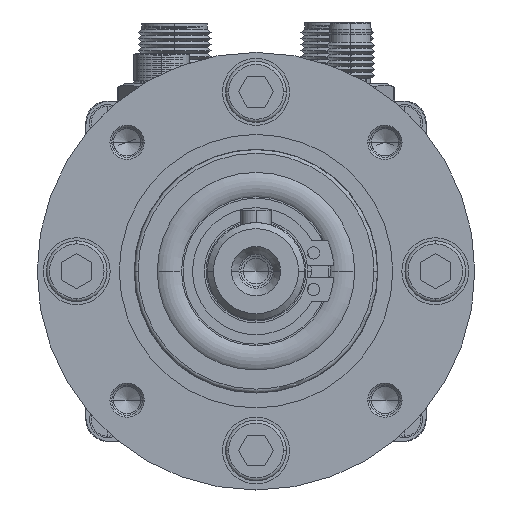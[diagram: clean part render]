
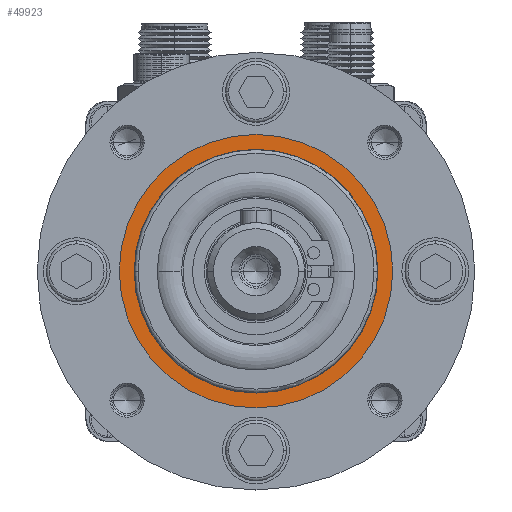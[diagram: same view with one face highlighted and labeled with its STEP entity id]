
A CAD part, left-side view. The second image highlights one B-rep face of the part: STEP entity #49923.
In plain terms, the highlighted planar face has unit normal (-1, 0, 0) as drawn and (1, 0, 0) by its records, which use the part's own axes.
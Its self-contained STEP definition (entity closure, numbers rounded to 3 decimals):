
#2457 = ORIENTED_EDGE ( 'NONE', *, *, #69246, .T. ) ;
#3340 = CARTESIAN_POINT ( 'NONE',  ( 38.6, 0., 0. ) ) ;
#4384 = ORIENTED_EDGE ( 'NONE', *, *, #74536, .F. ) ;
#5071 = VERTEX_POINT ( 'NONE', #5315 ) ;
#5315 = CARTESIAN_POINT ( 'NONE',  ( 38.6, 0., 22.5 ) ) ;
#6759 = DIRECTION ( 'NONE',  ( -1., 0., 0. ) ) ;
#9178 = VERTEX_POINT ( 'NONE', #121019 ) ;
#10565 = EDGE_CURVE ( 'NONE', #9178, #10707, #11176, .T. ) ;
#10707 = VERTEX_POINT ( 'NONE', #62765 ) ;
#11176 = CIRCLE ( 'NONE', #34781, 20.05 ) ;
#20887 = DIRECTION ( 'NONE',  ( 0., 0., 1. ) ) ;
#21089 = AXIS2_PLACEMENT_3D ( 'NONE', #26260, #35698, #25423 ) ;
#23425 = EDGE_CURVE ( 'NONE', #101879, #5071, #103327, .T. ) ;
#23616 = CARTESIAN_POINT ( 'NONE',  ( 38.6, 0., 0. ) ) ;
#24821 = AXIS2_PLACEMENT_3D ( 'NONE', #92806, #6759, #77126 ) ;
#25423 = DIRECTION ( 'NONE',  ( 0., 0., 1. ) ) ;
#26260 = CARTESIAN_POINT ( 'NONE',  ( 38.6, 0., 0. ) ) ;
#32217 = DIRECTION ( 'NONE',  ( 0., 0., -1. ) ) ;
#34781 = AXIS2_PLACEMENT_3D ( 'NONE', #100321, #41149, #20887 ) ;
#35698 = DIRECTION ( 'NONE',  ( -1., 0., 0. ) ) ;
#41149 = DIRECTION ( 'NONE',  ( -1., 0., 0. ) ) ;
#47099 = CIRCLE ( 'NONE', #108867, 22.5 ) ;
#49923 = ADVANCED_FACE ( 'NONE', ( #91833, #121132 ), #121648, .T. ) ;
#55236 = CARTESIAN_POINT ( 'NONE',  ( 38.6, 0., -22.5 ) ) ;
#62765 = CARTESIAN_POINT ( 'NONE',  ( 38.6, 0., 20.05 ) ) ;
#63364 = ORIENTED_EDGE ( 'NONE', *, *, #10565, .T. ) ;
#63755 = DIRECTION ( 'NONE',  ( -1., 0., 0. ) ) ;
#69246 = EDGE_CURVE ( 'NONE', #10707, #9178, #75555, .T. ) ;
#74536 = EDGE_CURVE ( 'NONE', #5071, #101879, #47099, .T. ) ;
#75418 = AXIS2_PLACEMENT_3D ( 'NONE', #23616, #82401, #83243 ) ;
#75555 = CIRCLE ( 'NONE', #21089, 20.05 ) ;
#77126 = DIRECTION ( 'NONE',  ( 0., 0., -1. ) ) ;
#77712 = ORIENTED_EDGE ( 'NONE', *, *, #23425, .F. ) ;
#82401 = DIRECTION ( 'NONE',  ( 1., 0., 0. ) ) ;
#83243 = DIRECTION ( 'NONE',  ( 0., 0., -1. ) ) ;
#91833 = FACE_OUTER_BOUND ( 'NONE', #119337, .T. ) ;
#92806 = CARTESIAN_POINT ( 'NONE',  ( 38.6, 0., 0. ) ) ;
#100321 = CARTESIAN_POINT ( 'NONE',  ( 38.6, 0., 0. ) ) ;
#101879 = VERTEX_POINT ( 'NONE', #55236 ) ;
#103327 = CIRCLE ( 'NONE', #24821, 22.5 ) ;
#108867 = AXIS2_PLACEMENT_3D ( 'NONE', #3340, #63755, #32217 ) ;
#119337 = EDGE_LOOP ( 'NONE', ( #77712, #4384 ) ) ;
#121019 = CARTESIAN_POINT ( 'NONE',  ( 38.6, 0., -20.05 ) ) ;
#121132 = FACE_BOUND ( 'NONE', #127317, .T. ) ;
#121648 = PLANE ( 'NONE',  #75418 ) ;
#127317 = EDGE_LOOP ( 'NONE', ( #2457, #63364 ) ) ;
